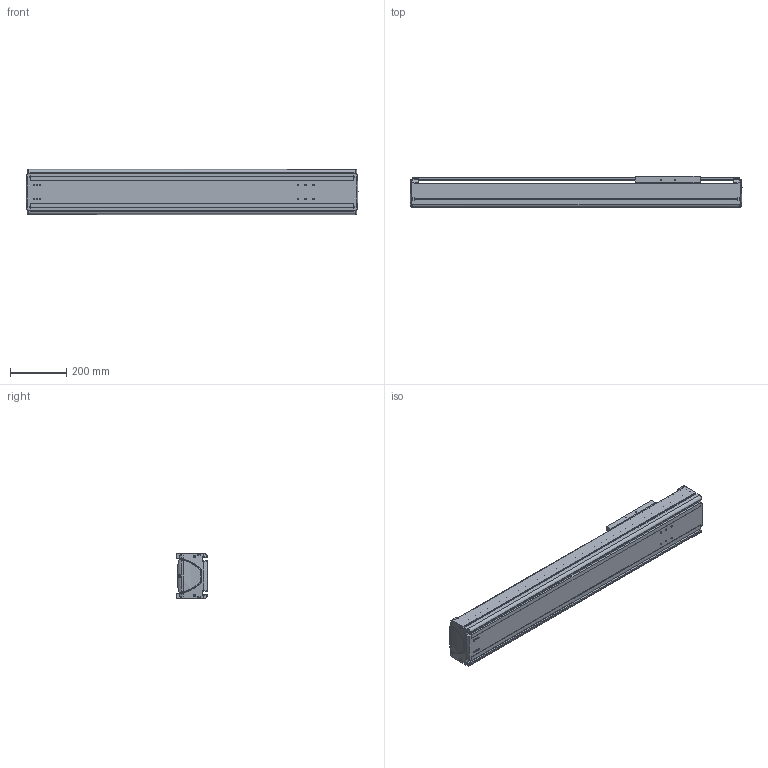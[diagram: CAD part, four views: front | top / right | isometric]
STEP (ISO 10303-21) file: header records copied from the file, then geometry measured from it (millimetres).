
FILE_DESCRIPTION((''),'2;1');
FILE_NAME('BE50G-ST-L_N-75_IGS_PRT','2017-06-18T',(' '),(''),'PRO/ENGINEER BY PARAMETRIC TECHNOLOGY CORPORATION, 2015030','PRO/ENGINEER BY PARAMETRIC TECHNOLOGY CORPORATION, 2015030','');
FILE_SCHEMA(('CONFIG_CONTROL_DESIGN'));
Length unit declared in the file: millimetre
Products named in the file (1): BE50G-ST-L_N-75_IGS_PRT
Bounding box: 1179.98 x 110 x 160 mm (x, y, z)
Volume: 5450481 mm3; surface area: 1836378.3 mm2
Topology: 2 solids, 85 shells, 1634 faces, 4351 edges, 2782 vertices
Faces by surface type: cylinder 708, plane 623, bspline 102, torus 87, cone 74, sphere 40
Entity records: 56259 total; most frequent: CARTESIAN_POINT 16144, ORIENTED_EDGE 8280, DIRECTION 8200, EDGE_CURVE 4306, AXIS2_PLACEMENT_3D 3056, VERTEX_POINT 2771, VECTOR 2088, LINE 2088
